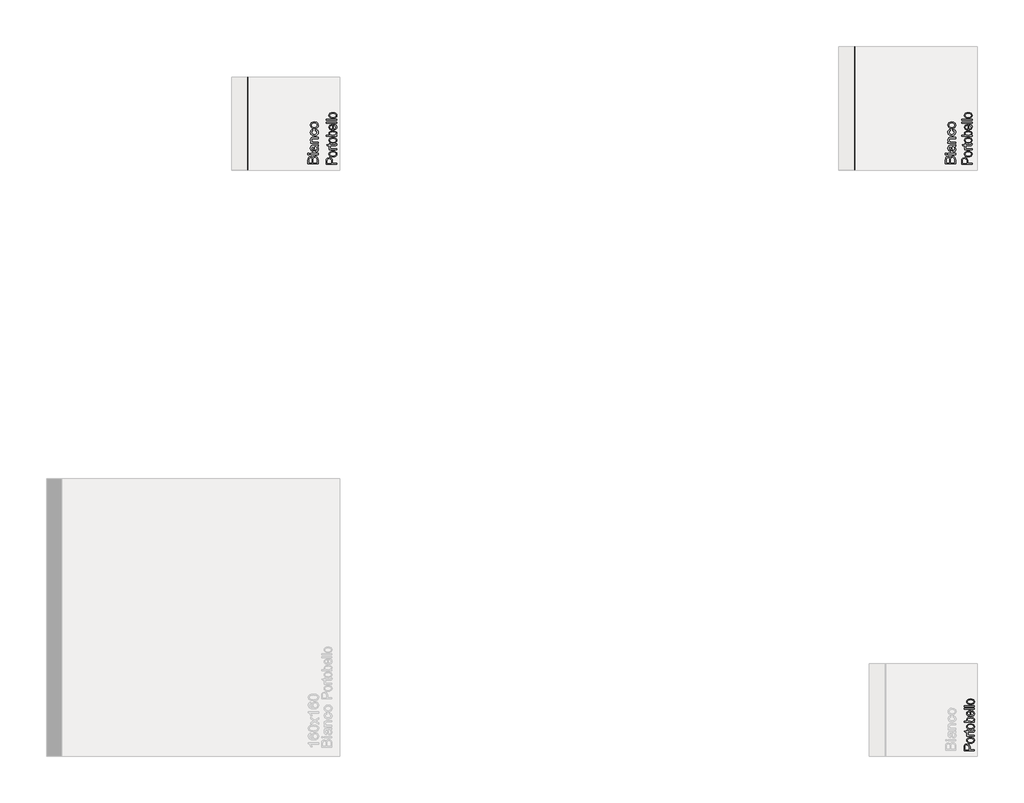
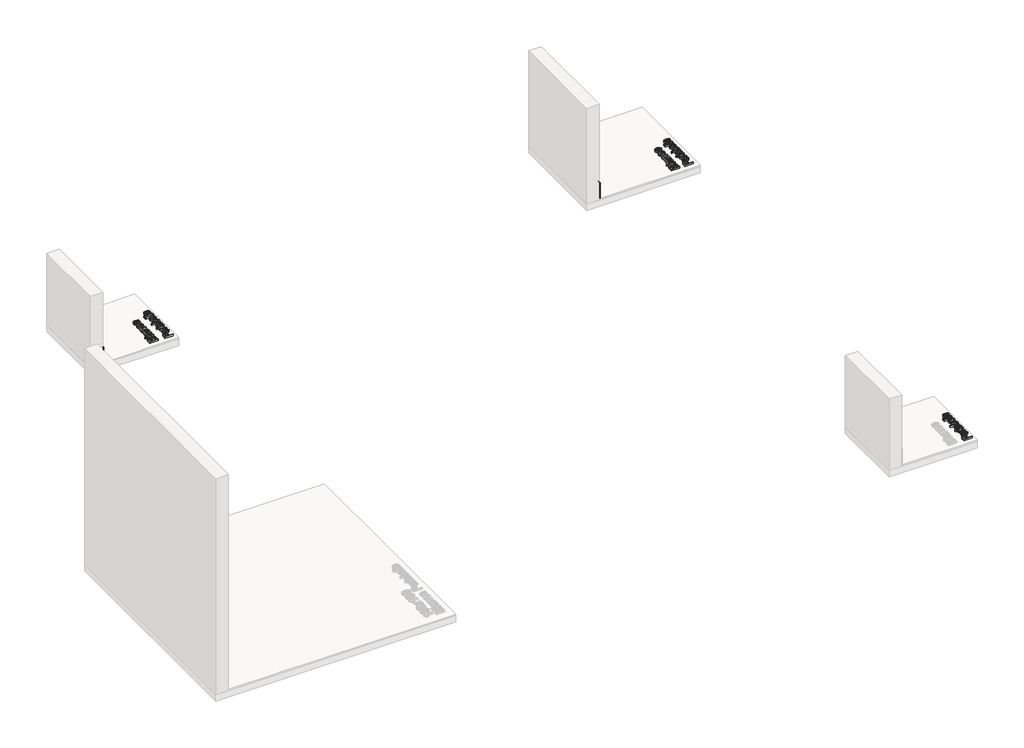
# One storey, part 13 of 14: 7 proxies.
"""IFC4 building model written with IfcOpenShell, lengths in millimetres."""

from ifc_helpers import new_model, si_unit, frame, origin, place, context, project, spatial, polyline, outline, extrude, element, save
from ifc_brep_helpers import plane_surface, extruded_surface, spline_curve, advanced_brep

model = new_model("IFC4")

# Units and contexts
model_context = context("Model", 3, world=origin())
ifc_project = project(units=[si_unit("LENGTHUNIT", "METRE", prefix="MILLI")], contexts=[model_context])

# Site, building, storey
site = spatial("IfcSite", under=ifc_project)
building = spatial("IfcBuilding", under=site)
storey = spatial("IfcBuildingStorey", under=building, Name="PORTOBELLO - SHOWROOM", Elevation=0.0)

# Proxies
placement = place(None, origin())
element("IfcBuildingElementProxy", 1, Name="RODAPE CRISTALLO BIANCO ST 20X120 NAT RET", ObjectType="RODAPE CRISTALLO BIANCO ST 20X120 NAT RET", at=placement, inside=storey, context=model_context, shape_type="AdvancedBrep", body=[
    advanced_brep(
    [(-5477.6369429, 28235.3842114, 217.0), (-5477.6369429, 28235.3842114, 17.0), (-5470.6369429, 28235.3842114, 17.0), (-5470.6369429, 28235.3842114, 210.0), (-5477.6369429, 29435.3842114, 217.0), (-5470.6369429, 29435.3842114, 210.0), (-5470.6369429, 29435.3842114, 17.0), (-5477.6369429, 29435.3842114, 17.0)],
    [
        (0, 1),
        (1, 2),
        (2, 3),
        (3, 0, spline_curve(3, [(-5470.6369429, 28235.3842114, 210.0), (-5470.6369429, 28235.3842114, 214.666666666), (-5472.970276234, 28235.3842114, 217.0), (-5477.6369429, 28235.3842114, 217.0)], [4, 4], [0.0, 0.029527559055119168])),
        (4, 5, spline_curve(3, [(-5477.6369429, 29435.3842114, 217.0), (-5472.970276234, 29435.3842114, 217.0), (-5470.6369429, 29435.3842114, 214.666666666), (-5470.6369429, 29435.3842114, 210.0)], [4, 4], [0.0, 0.029527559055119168])),
        (5, 6),
        (6, 7),
        (7, 4),
        (0, 4),
        (7, 1),
        (6, 2),
        (5, 3),
    ],
    [
        plane_surface(frame((-5677.6369429, 28235.3842114, 17.0), z_axis=(0.0, -1.0, 0.0), x_axis=(0.0, 0.0, 1.0))),
        plane_surface(frame((-5677.6369429, 29435.3842114, 17.0), z_axis=(0.0, 1.0, 0.0), x_axis=(0.0, 0.0, 1.0))),
        plane_surface(frame((-5477.6369429, 28235.3842114, 217.0), z_axis=(-1.0, 0.0, 0.0), x_axis=(0.0, 1.0, 0.0))),
        plane_surface(frame((-5477.6369429, 28235.3842114, 17.0), z_axis=(0.0, 0.0, -1.0), x_axis=(0.0, 1.0, 0.0))),
        plane_surface(frame((-5470.6369429, 28235.3842114, 17.0), z_axis=(1.0, 0.0, 0.0), x_axis=(0.0, 1.0, 0.0))),
        extruded_surface(spline_curve(3, [(-5470.6369429, 29435.3842114, 210.0), (-5470.6369429, 29435.3842114, 214.666666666), (-5472.970276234, 29435.3842114, 217.0), (-5477.6369429, 29435.3842114, 217.0)], [4, 4], [0.0, 0.029527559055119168]), (0.0, -1200.0, 0.0), 1200.0),
    ],
    [
        (0, [[1, 2, 3, 4]]),
        (1, [[5, 6, 7, 8]]),
        (2, [[-1, 9, -8, 10]]),
        (3, [[-2, -10, -7, 11]]),
        (4, [[-3, -11, -6, 12]]),
        (5, [[-4, -12, -5, -9]]),
    ],
),
])
element("IfcBuildingElementProxy", 2, Name="RODAPE CRISTALLO BIANCO 20X90 POL RET", ObjectType="RODAPE CRISTALLO BIANCO 20X90 POL RET", at=placement, inside=storey, context=model_context, shape_type="AdvancedBrep", body=[
    advanced_brep(
    [(-11377.661959, 28235.3842114, 217.0), (-11377.661959, 28235.3842114, 17.0), (-11369.661959, 28235.3842114, 17.0), (-11369.661959, 28235.3842114, 209.0), (-11377.661959, 29135.3842114, 217.0), (-11369.661959, 29135.3842114, 209.0), (-11369.661959, 29135.3842114, 17.0), (-11377.661959, 29135.3842114, 17.0)],
    [
        (0, 1),
        (1, 2),
        (2, 3),
        (3, 0, spline_curve(3, [(-11369.661959, 28235.3842114, 209.0), (-11369.661959, 28235.3842114, 214.333333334), (-11372.328625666, 28235.3842114, 217.0), (-11377.661959, 28235.3842114, 217.0)], [4, 4], [0.0, 0.029527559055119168])),
        (4, 5, spline_curve(3, [(-11377.661959, 29135.3842114, 217.0), (-11372.328625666, 29135.3842114, 217.0), (-11369.661959, 29135.3842114, 214.333333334), (-11369.661959, 29135.3842114, 209.0)], [4, 4], [0.0, 0.029527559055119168])),
        (5, 6),
        (6, 7),
        (7, 4),
        (0, 4),
        (7, 1),
        (6, 2),
        (5, 3),
    ],
    [
        plane_surface(frame((-11577.661959, 28235.3842114, 17.0), z_axis=(0.0, -1.0, 0.0), x_axis=(0.0, 0.0, 1.0))),
        plane_surface(frame((-11577.661959, 29135.3842114, 17.0), z_axis=(0.0, 1.0, 0.0), x_axis=(0.0, 0.0, 1.0))),
        plane_surface(frame((-11377.661959, 28235.3842114, 217.0), z_axis=(-1.0, 0.0, 0.0), x_axis=(0.0, 1.0, 0.0))),
        plane_surface(frame((-11377.661959, 28235.3842114, 17.0), z_axis=(0.0, 0.0, -1.0), x_axis=(0.0, 1.0, 0.0))),
        plane_surface(frame((-11369.661959, 28235.3842114, 17.0), z_axis=(1.0, 0.0, 0.0), x_axis=(0.0, 1.0, 0.0))),
        extruded_surface(spline_curve(3, [(-11369.661959, 29135.3842114, 209.0), (-11369.661959, 29135.3842114, 214.333333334), (-11372.328625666, 29135.3842114, 217.0), (-11377.661959, 29135.3842114, 217.0)], [4, 4], [0.0, 0.029527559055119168]), (0.0, -900.0, 0.0), 900.0),
    ],
    [
        (0, [[1, 2, 3, 4]]),
        (1, [[5, 6, 7, 8]]),
        (2, [[-1, 9, -8, 10]]),
        (3, [[-2, -10, -7, 11]]),
        (4, [[-3, -11, -6, 12]]),
        (5, [[-4, -12, -5, -9]]),
    ],
),
])
element("IfcBuildingElementProxy", 3, Name="10mm Arial", ObjectType="10mm Arial", at=placement, inside=storey, context=model_context, shape_type="SweptSolid", body=[
    extrude(outline(polyline([(-4490.3932397, 28294.2602677), (-4590.8495499, 28294.2602677), (-4590.8495499, 28332.5935716), (-4587.8942312, 28351.3678161), (-4578.8075459, 28362.4533269), (-4565.9562015, 28366.4632406), (-4554.2207659, 28363.090989), (-4545.3302843, 28352.9006577), (-4535.9615562, 28365.2737555), (-4520.3388341, 28369.6025003), (-4506.8375649, 28366.6471816), (-4497.2235821, 28359.3263299), (-4492.1222851, 28348.4002346), (-4490.3932397, 28332.299266), (-4490.3932397, 28294.2602677)]), holes=[polyline([(-4550.0391739, 28306.8173065), (-4550.0391739, 28329.7486175), (-4551.1182944, 28343.1395221), (-4555.7658702, 28351.1961378), (-4563.9451133, 28353.9062018), (-4572.136619, 28351.3800788), (-4576.9803986, 28344.1450662), (-4578.2925111, 28328.0073094), (-4578.2925111, 28306.8173065), (-4550.0391739, 28306.8173065)]), polyline([(-4502.9502785, 28306.8173065), (-4502.9502785, 28332.5690461), (-4503.4407878, 28341.8887233), (-4506.1753773, 28349.7736608), (-4511.7549209, 28354.9975851), (-4520.2162068, 28357.0454615), (-4529.9773424, 28354.6419658), (-4535.8021406, 28346.8551303), (-4537.4821351, 28331.3427728), (-4537.4821351, 28306.8173065), (-4502.9502785, 28306.8173065)])]), frame((0.0, 0.0, 17.0), z_axis=(0.0, 0.0, 1.0), x_axis=(1.0, 0.0, 0.0)), (0.0, 0.0, 1.0), 20.0),
    extrude(outline(polyline([(-4578.2925111, 28385.2987988), (-4590.8495499, 28385.2987988), (-4590.8495499, 28397.8558375), (-4578.2925111, 28397.8558375), (-4578.2925111, 28385.2987988)])), frame((0.0, 0.0, 17.0), z_axis=(0.0, 0.0, 1.0), x_axis=(1.0, 0.0, 0.0)), (0.0, 0.0, 1.0), 20.0),
    extrude(outline(polyline([(-4490.3932397, 28385.2987988), (-4564.1658425, 28385.2987988), (-4564.1658425, 28397.8558375), (-4490.3932397, 28397.8558375), (-4490.3932397, 28385.2987988)])), frame((0.0, 0.0, 17.0), z_axis=(0.0, 0.0, 1.0), x_axis=(1.0, 0.0, 0.0)), (0.0, 0.0, 1.0), 20.0),
    extrude(outline(polyline([(-4499.8110188, 28463.7802911), (-4491.300682, 28451.603397), (-4488.8236099, 28438.1511787), (-4490.3135319, 28427.6573448), (-4494.7832982, 28419.9164945), (-4501.570721, 28415.1432256), (-4510.0136128, 28413.552136), (-4519.9464267, 28415.9556317), (-4527.1569138, 28422.2709393), (-4531.2771921, 28431.063319), (-4533.165653, 28441.9281005), (-4537.4821351, 28463.7067147), (-4540.2780383, 28463.7802911), (-4549.5486645, 28460.3222003), (-4553.1784336, 28446.4407864), (-4550.7626751, 28433.7365948), (-4542.1910246, 28427.6788046), (-4543.7606545, 28415.1217658), (-4556.0233876, 28420.5541566), (-4563.2093493, 28431.4925146), (-4565.7354723, 28448.0594671), (-4563.5036549, 28463.277519), (-4557.8995858, 28471.873695), (-4549.3769863, 28475.7241932), (-4538.3895773, 28476.3373298), (-4522.7668553, 28476.3373298), (-4500.951453, 28476.974992), (-4490.3932397, 28479.4765895), (-4490.3932397, 28466.9195508), (-4499.8110188, 28463.7802911)]), holes=[polyline([(-4524.9250963, 28463.7802911), (-4521.0745981, 28443.5222559), (-4519.0389844, 28432.7187879), (-4515.7280464, 28427.8259574), (-4510.8965296, 28426.1091748), (-4504.1029754, 28429.8493084), (-4501.3806486, 28440.8244546), (-4504.3850183, 28453.5286461), (-4511.656819, 28461.7201519), (-4521.3689037, 28463.7067147), (-4524.9250963, 28463.7802911)])]), frame((0.0, 0.0, 17.0), z_axis=(0.0, 0.0, 1.0), x_axis=(1.0, 0.0, 0.0)), (0.0, 0.0, 1.0), 20.0),
    extrude(outline(polyline([(-4490.3932397, 28493.6032581), (-4564.1658425, 28493.6032581), (-4564.1658425, 28506.1602969), (-4553.8651466, 28506.1602969), (-4562.7678909, 28515.762017), (-4565.7354723, 28528.8708787), (-4563.3442394, 28540.7289417), (-4557.06572, 28548.8223456), (-4547.8318819, 28552.5870047), (-4535.691776, 28553.2491923), (-4490.3932397, 28553.2491923), (-4490.3932397, 28540.6921535), (-4533.9995189, 28540.6921535), (-4545.1095551, 28539.245151), (-4550.9834043, 28534.1315913), (-4553.1784336, 28525.5108899), (-4548.2488148, 28511.8869933), (-4541.1057727, 28507.591971), (-4529.535884, 28506.1602969), (-4490.3932397, 28506.1602969), (-4490.3932397, 28493.6032581)])), frame((0.0, 0.0, 17.0), z_axis=(0.0, 0.0, 1.0), x_axis=(1.0, 0.0, 0.0)), (0.0, 0.0, 1.0), 20.0),
    extrude(outline(polyline([(-4517.0769471, 28617.604016), (-4515.5073172, 28630.1610547), (-4504.339033, 28626.6600444), (-4495.8992069, 28620.0810881), (-4490.5925091, 28611.0434537), (-4488.8236099, 28600.1664094), (-4491.2914849, 28586.8092273), (-4498.6951101, 28576.3644443), (-4510.7095229, 28569.6230068), (-4527.009761, 28567.3758609), (-4547.8686701, 28571.2140964), (-4561.2718374, 28582.9127438), (-4565.7354723, 28599.9947311), (-4564.2026307, 28610.605061), (-4559.6041057, 28619.0878067), (-4552.1851522, 28625.173188), (-4542.1910246, 28628.5914249), (-4540.6213948, 28616.0343861), (-4550.0269111, 28610.2095879), (-4553.1784336, 28600.092833), (-4551.6271978, 28591.9779693), (-4546.9734906, 28585.5369687), (-4538.9659258, 28581.3339169), (-4527.3531175, 28579.9328997), (-4515.5839593, 28581.3032601), (-4507.5488034, 28585.4143414), (-4502.9226873, 28591.738846), (-4501.3806486, 28599.7494765), (-4505.2311468, 28611.583014), (-4517.0769471, 28617.604016)])), frame((0.0, 0.0, 17.0), z_axis=(0.0, 0.0, 1.0), x_axis=(1.0, 0.0, 0.0)), (0.0, 0.0, 1.0), 20.0),
    extrude(outline(polyline([(-4527.2795411, 28638.009204), (-4545.0666356, 28640.7253994), (-4557.568492, 28648.8739856), (-4563.6937272, 28658.9416895), (-4565.7354723, 28670.9959562), (-4563.2492032, 28684.1875914), (-4555.7903957, 28694.7243449), (-4543.9476612, 28701.6313294), (-4528.3096107, 28703.9336575), (-4505.9669108, 28699.8624301), (-4493.3240329, 28688.0043671), (-4488.8236099, 28670.9959562), (-4491.300682, 28657.6449055), (-4498.7318983, 28647.1204147), (-4510.8229532, 28640.2870067), (-4527.2795411, 28638.009204)]), holes=[polyline([(-4527.3040666, 28650.5662427), (-4515.9395786, 28652.0193766), (-4507.843109, 28656.3787783), (-4502.9962637, 28662.9393405), (-4501.3806486, 28670.9959562), (-4503.0054608, 28679.0157837), (-4507.8798972, 28685.5640832), (-4516.0836657, 28689.9234849), (-4527.696474, 28691.3766187), (-4538.7298682, 28689.9142878), (-4546.7159732, 28685.527295), (-4551.5628185, 28678.9697985), (-4553.1784336, 28670.9959562), (-4551.5689498, 28662.9393405), (-4546.7404986, 28656.3787783), (-4538.6624232, 28652.0193766), (-4527.3040666, 28650.5662427)])]), frame((0.0, 0.0, 17.0), z_axis=(0.0, 0.0, 1.0), x_axis=(1.0, 0.0, 0.0)), (0.0, 0.0, 1.0), 20.0),
])
element("IfcBuildingElementProxy", 4, Name="10mm Arial", ObjectType="10mm Arial", at=placement, inside=storey, context=model_context, shape_type="SweptSolid", body=[
    extrude(outline(polyline([(-10687.661959, 28294.2602677), (-10788.1182691, 28294.2602677), (-10788.1182691, 28332.5935716), (-10785.1629505, 28351.3678161), (-10776.0762652, 28362.4533269), (-10763.2249208, 28366.4632406), (-10751.4894852, 28363.090989), (-10742.5990036, 28352.9006577), (-10733.2302755, 28365.2737555), (-10717.6075534, 28369.6025003), (-10704.1062842, 28366.6471816), (-10694.4923014, 28359.3263299), (-10689.3910044, 28348.4002346), (-10687.661959, 28332.299266), (-10687.661959, 28294.2602677)]), holes=[polyline([(-10747.3078932, 28306.8173065), (-10747.3078932, 28329.7486175), (-10748.3870137, 28343.1395221), (-10753.0345895, 28351.1961378), (-10761.2138326, 28353.9062018), (-10769.4053383, 28351.3800788), (-10774.2491179, 28344.1450662), (-10775.5612304, 28328.0073094), (-10775.5612304, 28306.8173065), (-10747.3078932, 28306.8173065)]), polyline([(-10700.2189978, 28306.8173065), (-10700.2189978, 28332.5690461), (-10700.7095071, 28341.8887233), (-10703.4440966, 28349.7736608), (-10709.0236402, 28354.9975851), (-10717.4849261, 28357.0454615), (-10727.2460617, 28354.6419658), (-10733.0708599, 28346.8551303), (-10734.7508544, 28331.3427728), (-10734.7508544, 28306.8173065), (-10700.2189978, 28306.8173065)])]), frame((0.0, 0.0, 18.0), z_axis=(0.0, 0.0, 1.0), x_axis=(1.0, 0.0, 0.0)), (0.0, 0.0, 1.0), 20.0),
    extrude(outline(polyline([(-10775.5612304, 28385.2987988), (-10788.1182691, 28385.2987988), (-10788.1182691, 28397.8558375), (-10775.5612304, 28397.8558375), (-10775.5612304, 28385.2987988)])), frame((0.0, 0.0, 18.0), z_axis=(0.0, 0.0, 1.0), x_axis=(1.0, 0.0, 0.0)), (0.0, 0.0, 1.0), 20.0),
    extrude(outline(polyline([(-10687.661959, 28385.2987988), (-10761.4345618, 28385.2987988), (-10761.4345618, 28397.8558375), (-10687.661959, 28397.8558375), (-10687.661959, 28385.2987988)])), frame((0.0, 0.0, 18.0), z_axis=(0.0, 0.0, 1.0), x_axis=(1.0, 0.0, 0.0)), (0.0, 0.0, 1.0), 20.0),
    extrude(outline(polyline([(-10697.0797381, 28463.7802911), (-10688.5694013, 28451.603397), (-10686.0923292, 28438.1511787), (-10687.5822512, 28427.6573448), (-10692.0520175, 28419.9164945), (-10698.8394403, 28415.1432256), (-10707.2823321, 28413.552136), (-10717.2151459, 28415.9556317), (-10724.4256331, 28422.2709393), (-10728.5459114, 28431.063319), (-10730.4343723, 28441.9281005), (-10734.7508544, 28463.7067147), (-10737.5467575, 28463.7802911), (-10746.8173838, 28460.3222003), (-10750.4471528, 28446.4407864), (-10748.0313944, 28433.7365948), (-10739.4597439, 28427.6788046), (-10741.0293738, 28415.1217658), (-10753.2921069, 28420.5541566), (-10760.4780686, 28431.4925146), (-10763.0041916, 28448.0594671), (-10760.7723742, 28463.277519), (-10755.1683051, 28471.873695), (-10746.6457056, 28475.7241932), (-10735.6582966, 28476.3373298), (-10720.0355746, 28476.3373298), (-10698.2201723, 28476.974992), (-10687.661959, 28479.4765895), (-10687.661959, 28466.9195508), (-10697.0797381, 28463.7802911)]), holes=[polyline([(-10722.1938156, 28463.7802911), (-10718.3433174, 28443.5222559), (-10716.3077037, 28432.7187879), (-10712.9967657, 28427.8259574), (-10708.1652489, 28426.1091748), (-10701.3716947, 28429.8493084), (-10698.6493679, 28440.8244546), (-10701.6537375, 28453.5286461), (-10708.9255383, 28461.7201519), (-10718.637623, 28463.7067147), (-10722.1938156, 28463.7802911)])]), frame((0.0, 0.0, 18.0), z_axis=(0.0, 0.0, 1.0), x_axis=(1.0, 0.0, 0.0)), (0.0, 0.0, 1.0), 20.0),
    extrude(outline(polyline([(-10687.661959, 28493.6032581), (-10761.4345618, 28493.6032581), (-10761.4345618, 28506.1602969), (-10751.1338659, 28506.1602969), (-10760.0366102, 28515.762017), (-10763.0041916, 28528.8708787), (-10760.6129586, 28540.7289417), (-10754.3344393, 28548.8223456), (-10745.1006012, 28552.5870047), (-10732.9604953, 28553.2491923), (-10687.661959, 28553.2491923), (-10687.661959, 28540.6921535), (-10731.2682382, 28540.6921535), (-10742.3782744, 28539.245151), (-10748.2521236, 28534.1315913), (-10750.4471528, 28525.5108899), (-10745.5175341, 28511.8869933), (-10738.374492, 28507.591971), (-10726.8046033, 28506.1602969), (-10687.661959, 28506.1602969), (-10687.661959, 28493.6032581)])), frame((0.0, 0.0, 18.0), z_axis=(0.0, 0.0, 1.0), x_axis=(1.0, 0.0, 0.0)), (0.0, 0.0, 1.0), 20.0),
    extrude(outline(polyline([(-10714.3456664, 28617.604016), (-10712.7760365, 28630.1610547), (-10701.6077523, 28626.6600444), (-10693.1679262, 28620.0810881), (-10687.8612284, 28611.0434537), (-10686.0923292, 28600.1664094), (-10688.5602042, 28586.8092273), (-10695.9638294, 28576.3644443), (-10707.9782422, 28569.6230068), (-10724.2784803, 28567.3758609), (-10745.1373894, 28571.2140964), (-10758.5405567, 28582.9127438), (-10763.0041916, 28599.9947311), (-10761.47135, 28610.605061), (-10756.872825, 28619.0878067), (-10749.4538715, 28625.173188), (-10739.4597439, 28628.5914249), (-10737.8901141, 28616.0343861), (-10747.2956304, 28610.2095879), (-10750.4471528, 28600.092833), (-10748.8959171, 28591.9779693), (-10744.2422099, 28585.5369687), (-10736.2346451, 28581.3339169), (-10724.6218368, 28579.9328997), (-10712.8526786, 28581.3032601), (-10704.8175227, 28585.4143414), (-10700.1914066, 28591.738846), (-10698.6493679, 28599.7494765), (-10702.4998661, 28611.583014), (-10714.3456664, 28617.604016)])), frame((0.0, 0.0, 18.0), z_axis=(0.0, 0.0, 1.0), x_axis=(1.0, 0.0, 0.0)), (0.0, 0.0, 1.0), 20.0),
    extrude(outline(polyline([(-10724.5482604, 28638.009204), (-10742.3353548, 28640.7253994), (-10754.8372113, 28648.8739856), (-10760.9624465, 28658.9416895), (-10763.0041916, 28670.9959562), (-10760.5179225, 28684.1875914), (-10753.059115, 28694.7243449), (-10741.2163804, 28701.6313294), (-10725.57833, 28703.9336575), (-10703.2356301, 28699.8624301), (-10690.5927522, 28688.0043671), (-10686.0923292, 28670.9959562), (-10688.5694013, 28657.6449055), (-10696.0006176, 28647.1204147), (-10708.0916725, 28640.2870067), (-10724.5482604, 28638.009204)]), holes=[polyline([(-10724.5727858, 28650.5662427), (-10713.2082979, 28652.0193766), (-10705.1118283, 28656.3787783), (-10700.264983, 28662.9393405), (-10698.6493679, 28670.9959562), (-10700.2741801, 28679.0157837), (-10705.1486165, 28685.5640832), (-10713.352385, 28689.9234849), (-10724.9651933, 28691.3766187), (-10735.9985875, 28689.9142878), (-10743.9846925, 28685.527295), (-10748.8315377, 28678.9697985), (-10750.4471528, 28670.9959562), (-10748.8376691, 28662.9393405), (-10744.0092179, 28656.3787783), (-10735.9311424, 28652.0193766), (-10724.5727858, 28650.5662427)])]), frame((0.0, 0.0, 18.0), z_axis=(0.0, 0.0, 1.0), x_axis=(1.0, 0.0, 0.0)), (0.0, 0.0, 1.0), 20.0),
])
element("IfcBuildingElementProxy", 5, Name="10mm Arial Narrow", ObjectType="10mm Arial Narrow", at=placement, inside=storey, context=model_context, shape_type="SweptSolid", body=[
    extrude(outline(polyline([(-4330.3932397, 28291.3953268), (-4431.1118435, 28291.3953268), (-4431.1118435, 28322.6922115), (-4429.2335227, 28338.987913), (-4419.7530796, 28350.4608991), (-4402.7339707, 28354.7505776), (-4390.6581452, 28352.9642692), (-4381.0317514, 28347.6053439), (-4374.730493, 28337.8615551), (-4372.6300735, 28322.9206559), (-4372.6300735, 28301.1422885), (-4330.3932397, 28301.1422885), (-4330.3932397, 28291.3953268)]), holes=[polyline([(-4384.0015288, 28301.1422885), (-4384.0015288, 28324.1136434), (-4388.532343, 28339.9778388), (-4402.2009338, 28345.0036159), (-4412.3667102, 28342.5288014), (-4418.16666, 28336.5511726), (-4419.7403882, 28323.885199), (-4419.7403882, 28301.1422885), (-4384.0015288, 28301.1422885)])]), frame((0.0, 0.0, 17.0), z_axis=(0.0, 0.0, 1.0), x_axis=(1.0, 0.0, 0.0)), (0.0, 0.0, 1.0), 20.0),
    extrude(outline(polyline([(-4366.9443459, 28362.8730456), (-4383.5351215, 28364.8275145), (-4395.4872063, 28370.6909211), (-4402.7117609, 28379.5494878), (-4405.1199457, 28390.4894369), (-4402.7117609, 28401.3024725), (-4395.4872063, 28410.186422), (-4383.7254918, 28416.1259767), (-4367.7058273, 28418.1058283), (-4350.5439407, 28416.1608779), (-4338.4014855, 28410.3260269), (-4331.176931, 28401.4769787), (-4328.7687461, 28390.4894369), (-4331.1832766, 28379.6288088), (-4338.4268683, 28370.7543779), (-4350.3852987, 28364.8433787), (-4366.9443459, 28362.8730456)]), holes=[polyline([(-4366.9697286, 28372.6200073), (-4354.4179772, 28373.9240441), (-4345.5467192, 28377.8361547), (-4340.2734606, 28383.6773514), (-4338.5157078, 28390.7686468), (-4340.2893248, 28397.48872), (-4345.6101759, 28403.1807933), (-4354.4972982, 28407.0643483), (-4366.9697286, 28408.3588666), (-4379.483406, 28407.0548298), (-4388.3419727, 28403.1427192), (-4393.6152312, 28397.3015225), (-4395.3729841, 28390.2102271), (-4393.6057127, 28383.4425614), (-4388.3038986, 28377.7600066), (-4379.4358134, 28373.9050071), (-4366.9697286, 28372.6200073)])]), frame((0.0, 0.0, 17.0), z_axis=(0.0, 0.0, 1.0), x_axis=(1.0, 0.0, 0.0)), (0.0, 0.0, 1.0), 20.0),
    extrude(outline(polyline([(-4338.5157078, 28489.5835471), (-4328.7687461, 28491.2080407), (-4328.7687461, 28483.847054), (-4330.8882026, 28475.5722897), (-4336.6881524, 28471.2572286), (-4351.3339776, 28470.0896238), (-4393.7484905, 28470.0896238), (-4393.7484905, 28461.9671557), (-4396.9974777, 28461.9671557), (-4392.1239968, 28460.3426621), (-4393.7484905, 28452.7786138), (-4391.4259722, 28446.6994541), (-4384.9406892, 28442.8285904), (-4369.5333826, 28440.8487388), (-4330.3932397, 28440.8487388), (-4330.3932397, 28431.1017772), (-4403.4954521, 28431.1017772), (-4403.4954521, 28440.8487388), (-4393.7992559, 28440.8487388), (-4402.886267, 28447.0928861), (-4405.1199457, 28453.4893297), (-4403.4954521, 28461.9671557), (-4403.4954521, 28470.0896238), (-4419.7403882, 28470.0896238), (-4427.8628562, 28479.8365854), (-4403.4954521, 28479.8365854), (-4403.4954521, 28489.5835471), (-4393.7484905, 28489.5835471), (-4393.7484905, 28479.8365854), (-4349.1002989, 28479.8365854), (-4341.1047444, 28480.6995977), (-4338.5157078, 28485.3192514), (-4338.5157078, 28489.5835471)])), frame((0.0, 0.0, 17.0), z_axis=(0.0, 0.0, 1.0), x_axis=(1.0, 0.0, 0.0)), (0.0, 0.0, 1.0), 20.0),
    extrude(outline(polyline([(-4366.9443459, 28496.0815215), (-4383.5351215, 28498.0359904), (-4395.4872063, 28503.899397), (-4402.7117609, 28512.7579637), (-4405.1199457, 28523.6979129), (-4402.7117609, 28534.5109485), (-4395.4872063, 28543.3948979), (-4383.7254918, 28549.3344526), (-4367.7058273, 28551.3143042), (-4350.5439407, 28549.3693539), (-4338.4014855, 28543.5345028), (-4331.176931, 28534.6854546), (-4328.7687461, 28523.6979129), (-4331.1832766, 28512.8372847), (-4338.4268683, 28503.9628538), (-4350.3852987, 28498.0518546), (-4366.9443459, 28496.0815215)]), holes=[polyline([(-4366.9697286, 28505.8284832), (-4354.4179772, 28507.13252), (-4345.5467192, 28511.0446306), (-4340.2734606, 28516.8858274), (-4338.5157078, 28523.9771227), (-4340.2893248, 28530.6971959), (-4345.6101759, 28536.3892692), (-4354.4972982, 28540.2728242), (-4366.9697286, 28541.5673426), (-4379.483406, 28540.2633057), (-4388.3419727, 28536.3511951), (-4393.6152312, 28530.5099984), (-4395.3729841, 28523.418703), (-4393.6057127, 28516.6510373), (-4388.3038986, 28510.9684825), (-4379.4358134, 28507.113483), (-4366.9697286, 28505.8284832)])]), frame((0.0, 0.0, 17.0), z_axis=(0.0, 0.0, 1.0), x_axis=(1.0, 0.0, 0.0)), (0.0, 0.0, 1.0), 20.0),
    extrude(outline(polyline([(-4330.3932397, 28574.0572148), (-4330.3932397, 28564.3102531), (-4431.1118435, 28564.3102531), (-4431.1118435, 28574.0572148), (-4395.7029593, 28574.0572148), (-4402.7847362, 28581.4562755), (-4405.1199457, 28590.6575088), (-4400.9191068, 28603.5392355), (-4388.1896764, 28612.816617), (-4367.5027656, 28616.2940486), (-4351.0484221, 28614.3617896), (-4338.845683, 28608.5650126), (-4331.2879803, 28600.1918903), (-4328.7687461, 28590.5305953), (-4331.3831655, 28581.189757), (-4339.1502756, 28574.0572148), (-4330.3932397, 28574.0572148)]), holes=[polyline([(-4367.5027656, 28574.0572148), (-4350.2552123, 28576.1385972), (-4341.5235592, 28582.0273865), (-4338.5157078, 28590.4798298), (-4340.305189, 28596.4225574), (-4345.6736327, 28601.6609148), (-4367.0966422, 28606.5470869), (-4388.532343, 28601.8385937), (-4393.6628238, 28596.5938907), (-4395.3729841, 28590.2767681), (-4393.5835028, 28584.2991393), (-4388.2150591, 28579.0068437), (-4367.5027656, 28574.0572148)])]), frame((0.0, 0.0, 17.0), z_axis=(0.0, 0.0, 1.0), x_axis=(1.0, 0.0, 0.0)), (0.0, 0.0, 1.0), 20.0),
    extrude(outline(polyline([(-4353.1361502, 28668.2778441), (-4351.5116566, 28678.0248057), (-4341.62509, 28674.3252754), (-4334.5052392, 28668.5062885), (-4330.2028694, 28660.8026352), (-4328.7687461, 28651.4491056), (-4331.1832766, 28639.8555516), (-4338.4268683, 28630.7114294), (-4350.2330025, 28624.7718746), (-4366.3351608, 28622.792023), (-4383.0020845, 28624.7813931), (-4395.1826137, 28630.7495034), (-4402.6356127, 28639.7635393), (-4405.1199457, 28650.8906859), (-4402.7212794, 28661.5736351), (-4395.5252803, 28670.3211524), (-4383.7857757, 28676.1560035), (-4367.7565927, 28678.1009539), (-4364.5076055, 28678.0248057), (-4364.5076055, 28632.5389847), (-4345.0644476, 28638.5419962), (-4340.1528927, 28644.4720325), (-4338.5157078, 28651.5760192), (-4342.1708184, 28661.7544869), (-4353.1361502, 28668.2778441)]), holes=[polyline([(-4374.2545671, 28633.1989352), (-4374.2545671, 28668.2778441), (-4388.5196517, 28664.0135484), (-4393.659651, 28658.1882158), (-4395.3729841, 28650.9668341), (-4389.6618737, 28638.7577493), (-4374.2545671, 28633.1989352)])]), frame((0.0, 0.0, 17.0), z_axis=(0.0, 0.0, 1.0), x_axis=(1.0, 0.0, 0.0)), (0.0, 0.0, 1.0), 20.0),
    extrude(outline(polyline([(-4330.3932397, 28691.0207546), (-4431.1118435, 28691.0207546), (-4431.1118435, 28700.7677163), (-4330.3932397, 28700.7677163), (-4330.3932397, 28691.0207546)])), frame((0.0, 0.0, 17.0), z_axis=(0.0, 0.0, 1.0), x_axis=(1.0, 0.0, 0.0)), (0.0, 0.0, 1.0), 20.0),
    extrude(outline(polyline([(-4330.3932397, 28717.0126523), (-4431.1118435, 28717.0126523), (-4431.1118435, 28726.759614), (-4330.3932397, 28726.759614), (-4330.3932397, 28717.0126523)])), frame((0.0, 0.0, 17.0), z_axis=(0.0, 0.0, 1.0), x_axis=(1.0, 0.0, 0.0)), (0.0, 0.0, 1.0), 20.0),
    extrude(outline(polyline([(-4366.9443459, 28738.1310693), (-4383.5351215, 28740.0855381), (-4395.4872063, 28745.9489448), (-4402.7117609, 28754.8075115), (-4405.1199457, 28765.7474606), (-4402.7117609, 28776.5604962), (-4395.4872063, 28785.4444456), (-4383.7254918, 28791.3840004), (-4367.7058273, 28793.363852), (-4350.5439407, 28791.4189016), (-4338.4014855, 28785.5840505), (-4331.176931, 28776.7350023), (-4328.7687461, 28765.7474606), (-4331.1832766, 28754.8868324), (-4338.4268683, 28746.0124015), (-4350.3852987, 28740.1014023), (-4366.9443459, 28738.1310693)]), holes=[polyline([(-4366.9697286, 28747.8780309), (-4354.4179772, 28749.1820678), (-4345.5467192, 28753.0941784), (-4340.2734606, 28758.9353751), (-4338.5157078, 28766.0266704), (-4340.2893248, 28772.7467436), (-4345.6101759, 28778.4388169), (-4354.4972982, 28782.322372), (-4366.9697286, 28783.6168903), (-4379.483406, 28782.3128534), (-4388.3419727, 28778.4007429), (-4393.6152312, 28772.5595461), (-4395.3729841, 28765.4682508), (-4393.6057127, 28758.700585), (-4388.3038986, 28753.0180302), (-4379.4358134, 28749.1630307), (-4366.9697286, 28747.8780309)])]), frame((0.0, 0.0, 17.0), z_axis=(0.0, 0.0, 1.0), x_axis=(1.0, 0.0, 0.0)), (0.0, 0.0, 1.0), 20.0),
])
element("IfcBuildingElementProxy", 6, Name="10mm Arial Narrow", ObjectType="10mm Arial Narrow", at=placement, inside=storey, context=model_context, shape_type="SweptSolid", body=[
    extrude(outline(polyline([(-4307.6369429, 22591.3953268), (-4408.3555467, 22591.3953268), (-4408.3555467, 22622.6922115), (-4406.4772259, 22638.987913), (-4396.9967828, 22650.4608991), (-4379.9776739, 22654.7505776), (-4367.9018484, 22652.9642692), (-4358.2754546, 22647.6053439), (-4351.9741962, 22637.8615551), (-4349.8737767, 22622.9206559), (-4349.8737767, 22601.1422885), (-4307.6369429, 22601.1422885), (-4307.6369429, 22591.3953268)]), holes=[polyline([(-4361.245232, 22601.1422885), (-4361.245232, 22624.1136434), (-4365.7760462, 22639.9778388), (-4379.444637, 22645.0036159), (-4389.6104134, 22642.5288014), (-4395.4103632, 22636.5511726), (-4396.9840914, 22623.885199), (-4396.9840914, 22601.1422885), (-4361.245232, 22601.1422885)])]), frame((0.0, 0.0, 18.0), z_axis=(0.0, 0.0, 1.0), x_axis=(1.0, 0.0, 0.0)), (0.0, 0.0, 1.0), 20.0),
    extrude(outline(polyline([(-4344.1880491, 22662.8730456), (-4360.7788247, 22664.8275145), (-4372.7309095, 22670.6909211), (-4379.9554641, 22679.5494878), (-4382.3636489, 22690.4894369), (-4379.9554641, 22701.3024725), (-4372.7309095, 22710.186422), (-4360.969195, 22716.1259767), (-4344.9495305, 22718.1058283), (-4327.7876439, 22716.1608779), (-4315.6451888, 22710.3260269), (-4308.4206342, 22701.4769787), (-4306.0124493, 22690.4894369), (-4308.4269798, 22679.6288088), (-4315.6705715, 22670.7543779), (-4327.629002, 22664.8433787), (-4344.1880491, 22662.8730456)]), holes=[polyline([(-4344.2134318, 22672.6200073), (-4331.6616804, 22673.9240441), (-4322.7904224, 22677.8361547), (-4317.5171638, 22683.6773514), (-4315.759411, 22690.7686468), (-4317.533028, 22697.48872), (-4322.8538791, 22703.1807933), (-4331.7410014, 22707.0643483), (-4344.2134318, 22708.3588666), (-4356.7271092, 22707.0548298), (-4365.5856759, 22703.1427192), (-4370.8589344, 22697.3015225), (-4372.6166873, 22690.2102271), (-4370.8494159, 22683.4425614), (-4365.5476018, 22677.7600066), (-4356.6795166, 22673.9050071), (-4344.2134318, 22672.6200073)])]), frame((0.0, 0.0, 18.0), z_axis=(0.0, 0.0, 1.0), x_axis=(1.0, 0.0, 0.0)), (0.0, 0.0, 1.0), 20.0),
    extrude(outline(polyline([(-4315.759411, 22789.5835471), (-4306.0124493, 22791.2080407), (-4306.0124493, 22783.847054), (-4308.1319058, 22775.5722897), (-4313.9318557, 22771.2572286), (-4328.5776808, 22770.0896238), (-4370.9921937, 22770.0896238), (-4370.9921937, 22761.9671557), (-4374.2411809, 22761.9671557), (-4369.3677001, 22760.3426621), (-4370.9921937, 22752.7786138), (-4368.6696755, 22746.6994541), (-4362.1843924, 22742.8285904), (-4346.7770858, 22740.8487388), (-4307.6369429, 22740.8487388), (-4307.6369429, 22731.1017772), (-4380.7391553, 22731.1017772), (-4380.7391553, 22740.8487388), (-4371.0429591, 22740.8487388), (-4380.1299702, 22747.0928861), (-4382.3636489, 22753.4893297), (-4380.7391553, 22761.9671557), (-4380.7391553, 22770.0896238), (-4396.9840914, 22770.0896238), (-4405.1065595, 22779.8365854), (-4380.7391553, 22779.8365854), (-4380.7391553, 22789.5835471), (-4370.9921937, 22789.5835471), (-4370.9921937, 22779.8365854), (-4326.3440021, 22779.8365854), (-4318.3484477, 22780.6995977), (-4315.759411, 22785.3192514), (-4315.759411, 22789.5835471)])), frame((0.0, 0.0, 18.0), z_axis=(0.0, 0.0, 1.0), x_axis=(1.0, 0.0, 0.0)), (0.0, 0.0, 1.0), 20.0),
    extrude(outline(polyline([(-4344.1880491, 22796.0815215), (-4360.7788247, 22798.0359904), (-4372.7309095, 22803.899397), (-4379.9554641, 22812.7579637), (-4382.3636489, 22823.6979129), (-4379.9554641, 22834.5109485), (-4372.7309095, 22843.3948979), (-4360.969195, 22849.3344526), (-4344.9495305, 22851.3143042), (-4327.7876439, 22849.3693539), (-4315.6451888, 22843.5345028), (-4308.4206342, 22834.6854546), (-4306.0124493, 22823.6979129), (-4308.4269798, 22812.8372847), (-4315.6705715, 22803.9628538), (-4327.629002, 22798.0518546), (-4344.1880491, 22796.0815215)]), holes=[polyline([(-4344.2134318, 22805.8284832), (-4331.6616804, 22807.13252), (-4322.7904224, 22811.0446306), (-4317.5171638, 22816.8858274), (-4315.759411, 22823.9771227), (-4317.533028, 22830.6971959), (-4322.8538791, 22836.3892692), (-4331.7410014, 22840.2728242), (-4344.2134318, 22841.5673426), (-4356.7271092, 22840.2633057), (-4365.5856759, 22836.3511951), (-4370.8589344, 22830.5099984), (-4372.6166873, 22823.418703), (-4370.8494159, 22816.6510373), (-4365.5476018, 22810.9684825), (-4356.6795166, 22807.113483), (-4344.2134318, 22805.8284832)])]), frame((0.0, 0.0, 18.0), z_axis=(0.0, 0.0, 1.0), x_axis=(1.0, 0.0, 0.0)), (0.0, 0.0, 1.0), 20.0),
    extrude(outline(polyline([(-4307.6369429, 22874.0572148), (-4307.6369429, 22864.3102531), (-4408.3555467, 22864.3102531), (-4408.3555467, 22874.0572148), (-4372.9466625, 22874.0572148), (-4380.0284394, 22881.4562755), (-4382.3636489, 22890.6575088), (-4378.16281, 22903.5392355), (-4365.4333796, 22912.816617), (-4344.7464688, 22916.2940486), (-4328.2921253, 22914.3617896), (-4316.0893862, 22908.5650126), (-4308.5316835, 22900.1918903), (-4306.0124493, 22890.5305953), (-4308.6268687, 22881.189757), (-4316.3939788, 22874.0572148), (-4307.6369429, 22874.0572148)]), holes=[polyline([(-4344.7464688, 22874.0572148), (-4327.4989156, 22876.1385972), (-4318.7672624, 22882.0273865), (-4315.759411, 22890.4798298), (-4317.5488922, 22896.4225574), (-4322.9173359, 22901.6609148), (-4344.3403454, 22906.5470869), (-4365.7760462, 22901.8385937), (-4370.906527, 22896.5938907), (-4372.6166873, 22890.2767681), (-4370.827206, 22884.2991393), (-4365.4587623, 22879.0068437), (-4344.7464688, 22874.0572148)])]), frame((0.0, 0.0, 18.0), z_axis=(0.0, 0.0, 1.0), x_axis=(1.0, 0.0, 0.0)), (0.0, 0.0, 1.0), 20.0),
    extrude(outline(polyline([(-4330.3798534, 22968.2778441), (-4328.7553598, 22978.0248057), (-4318.8687933, 22974.3252754), (-4311.7489424, 22968.5062885), (-4307.4465726, 22960.8026352), (-4306.0124493, 22951.4491056), (-4308.4269798, 22939.8555516), (-4315.6705715, 22930.7114294), (-4327.4767057, 22924.7718746), (-4343.578864, 22922.792023), (-4360.2457877, 22924.7813931), (-4372.4263169, 22930.7495034), (-4379.8793159, 22939.7635393), (-4382.3636489, 22950.8906859), (-4379.9649826, 22961.5736351), (-4372.7689835, 22970.3211524), (-4361.029479, 22976.1560035), (-4345.0002959, 22978.1009539), (-4341.7513087, 22978.0248057), (-4341.7513087, 22932.5389847), (-4322.3081508, 22938.5419962), (-4317.3965959, 22944.4720325), (-4315.759411, 22951.5760192), (-4319.4145216, 22961.7544869), (-4330.3798534, 22968.2778441)]), holes=[polyline([(-4351.4982704, 22933.1989352), (-4351.4982704, 22968.2778441), (-4365.7633549, 22964.0135484), (-4370.9033542, 22958.1882158), (-4372.6166873, 22950.9668341), (-4366.9055769, 22938.7577493), (-4351.4982704, 22933.1989352)])]), frame((0.0, 0.0, 18.0), z_axis=(0.0, 0.0, 1.0), x_axis=(1.0, 0.0, 0.0)), (0.0, 0.0, 1.0), 20.0),
    extrude(outline(polyline([(-4307.6369429, 22991.0207546), (-4408.3555467, 22991.0207546), (-4408.3555467, 23000.7677163), (-4307.6369429, 23000.7677163), (-4307.6369429, 22991.0207546)])), frame((0.0, 0.0, 18.0), z_axis=(0.0, 0.0, 1.0), x_axis=(1.0, 0.0, 0.0)), (0.0, 0.0, 1.0), 20.0),
    extrude(outline(polyline([(-4307.6369429, 23017.0126523), (-4408.3555467, 23017.0126523), (-4408.3555467, 23026.759614), (-4307.6369429, 23026.759614), (-4307.6369429, 23017.0126523)])), frame((0.0, 0.0, 18.0), z_axis=(0.0, 0.0, 1.0), x_axis=(1.0, 0.0, 0.0)), (0.0, 0.0, 1.0), 20.0),
    extrude(outline(polyline([(-4344.1880491, 23038.1310693), (-4360.7788247, 23040.0855381), (-4372.7309095, 23045.9489448), (-4379.9554641, 23054.8075115), (-4382.3636489, 23065.7474606), (-4379.9554641, 23076.5604962), (-4372.7309095, 23085.4444456), (-4360.969195, 23091.3840004), (-4344.9495305, 23093.363852), (-4327.7876439, 23091.4189016), (-4315.6451888, 23085.5840505), (-4308.4206342, 23076.7350023), (-4306.0124493, 23065.7474606), (-4308.4269798, 23054.8868324), (-4315.6705715, 23046.0124015), (-4327.629002, 23040.1014023), (-4344.1880491, 23038.1310693)]), holes=[polyline([(-4344.2134318, 23047.8780309), (-4331.6616804, 23049.1820678), (-4322.7904224, 23053.0941784), (-4317.5171638, 23058.9353751), (-4315.759411, 23066.0266704), (-4317.533028, 23072.7467436), (-4322.8538791, 23078.4388169), (-4331.7410014, 23082.322372), (-4344.2134318, 23083.6168903), (-4356.7271092, 23082.3128534), (-4365.5856759, 23078.4007429), (-4370.8589344, 23072.5595461), (-4372.6166873, 23065.4682508), (-4370.8494159, 23058.700585), (-4365.5476018, 23053.0180302), (-4356.6795166, 23049.1630307), (-4344.2134318, 23047.8780309)])]), frame((0.0, 0.0, 18.0), z_axis=(0.0, 0.0, 1.0), x_axis=(1.0, 0.0, 0.0)), (0.0, 0.0, 1.0), 20.0),
])
element("IfcBuildingElementProxy", 7, Name="10mm Arial Narrow", ObjectType="10mm Arial Narrow", at=placement, inside=storey, context=model_context, shape_type="SweptSolid", body=[
    extrude(outline(polyline([(-10507.661959, 28291.3953268), (-10608.3805628, 28291.3953268), (-10608.3805628, 28322.6922115), (-10606.502242, 28338.987913), (-10597.0217988, 28350.4608991), (-10580.00269, 28354.7505776), (-10567.9268645, 28352.9642692), (-10558.3004707, 28347.6053439), (-10551.9992123, 28337.8615551), (-10549.8987928, 28322.9206559), (-10549.8987928, 28301.1422885), (-10507.661959, 28301.1422885), (-10507.661959, 28291.3953268)]), holes=[polyline([(-10561.2702481, 28301.1422885), (-10561.2702481, 28324.1136434), (-10565.8010623, 28339.9778388), (-10579.4696531, 28345.0036159), (-10589.6354295, 28342.5288014), (-10595.4353793, 28336.5511726), (-10597.0091075, 28323.885199), (-10597.0091075, 28301.1422885), (-10561.2702481, 28301.1422885)])]), frame((0.0, 0.0, 18.0), z_axis=(0.0, 0.0, 1.0), x_axis=(1.0, 0.0, 0.0)), (0.0, 0.0, 1.0), 20.0),
    extrude(outline(polyline([(-10544.2130652, 28362.8730456), (-10560.8038407, 28364.8275145), (-10572.7559256, 28370.6909211), (-10579.9804801, 28379.5494878), (-10582.388665, 28390.4894369), (-10579.9804801, 28401.3024725), (-10572.7559256, 28410.186422), (-10560.9942111, 28416.1259767), (-10544.9745466, 28418.1058283), (-10527.81266, 28416.1608779), (-10515.6702048, 28410.3260269), (-10508.4456503, 28401.4769787), (-10506.0374654, 28390.4894369), (-10508.4519959, 28379.6288088), (-10515.6955875, 28370.7543779), (-10527.654018, 28364.8433787), (-10544.2130652, 28362.8730456)]), holes=[polyline([(-10544.2384479, 28372.6200073), (-10531.6866965, 28373.9240441), (-10522.8154384, 28377.8361547), (-10517.5421799, 28383.6773514), (-10515.784427, 28390.7686468), (-10517.5580441, 28397.48872), (-10522.8788952, 28403.1807933), (-10531.7660175, 28407.0643483), (-10544.2384479, 28408.3588666), (-10556.7521252, 28407.0548298), (-10565.610692, 28403.1427192), (-10570.8839505, 28397.3015225), (-10572.6417034, 28390.2102271), (-10570.874432, 28383.4425614), (-10565.5726179, 28377.7600066), (-10556.7045327, 28373.9050071), (-10544.2384479, 28372.6200073)])]), frame((0.0, 0.0, 18.0), z_axis=(0.0, 0.0, 1.0), x_axis=(1.0, 0.0, 0.0)), (0.0, 0.0, 1.0), 20.0),
    extrude(outline(polyline([(-10515.784427, 28489.5835471), (-10506.0374654, 28491.2080407), (-10506.0374654, 28483.847054), (-10508.1569219, 28475.5722897), (-10513.9568717, 28471.2572286), (-10528.6026969, 28470.0896238), (-10571.0172097, 28470.0896238), (-10571.0172097, 28461.9671557), (-10574.266197, 28461.9671557), (-10569.3927161, 28460.3426621), (-10571.0172097, 28452.7786138), (-10568.6946915, 28446.6994541), (-10562.2094085, 28442.8285904), (-10546.8021019, 28440.8487388), (-10507.661959, 28440.8487388), (-10507.661959, 28431.1017772), (-10580.7641714, 28431.1017772), (-10580.7641714, 28440.8487388), (-10571.0679752, 28440.8487388), (-10580.1549863, 28447.0928861), (-10582.388665, 28453.4893297), (-10580.7641714, 28461.9671557), (-10580.7641714, 28470.0896238), (-10597.0091075, 28470.0896238), (-10605.1315755, 28479.8365854), (-10580.7641714, 28479.8365854), (-10580.7641714, 28489.5835471), (-10571.0172097, 28489.5835471), (-10571.0172097, 28479.8365854), (-10526.3690182, 28479.8365854), (-10518.3734637, 28480.6995977), (-10515.784427, 28485.3192514), (-10515.784427, 28489.5835471)])), frame((0.0, 0.0, 18.0), z_axis=(0.0, 0.0, 1.0), x_axis=(1.0, 0.0, 0.0)), (0.0, 0.0, 1.0), 20.0),
    extrude(outline(polyline([(-10544.2130652, 28496.0815215), (-10560.8038407, 28498.0359904), (-10572.7559256, 28503.899397), (-10579.9804801, 28512.7579637), (-10582.388665, 28523.6979129), (-10579.9804801, 28534.5109485), (-10572.7559256, 28543.3948979), (-10560.9942111, 28549.3344526), (-10544.9745466, 28551.3143042), (-10527.81266, 28549.3693539), (-10515.6702048, 28543.5345028), (-10508.4456503, 28534.6854546), (-10506.0374654, 28523.6979129), (-10508.4519959, 28512.8372847), (-10515.6955875, 28503.9628538), (-10527.654018, 28498.0518546), (-10544.2130652, 28496.0815215)]), holes=[polyline([(-10544.2384479, 28505.8284832), (-10531.6866965, 28507.13252), (-10522.8154384, 28511.0446306), (-10517.5421799, 28516.8858274), (-10515.784427, 28523.9771227), (-10517.5580441, 28530.6971959), (-10522.8788952, 28536.3892692), (-10531.7660175, 28540.2728242), (-10544.2384479, 28541.5673426), (-10556.7521252, 28540.2633057), (-10565.610692, 28536.3511951), (-10570.8839505, 28530.5099984), (-10572.6417034, 28523.418703), (-10570.874432, 28516.6510373), (-10565.5726179, 28510.9684825), (-10556.7045327, 28507.113483), (-10544.2384479, 28505.8284832)])]), frame((0.0, 0.0, 18.0), z_axis=(0.0, 0.0, 1.0), x_axis=(1.0, 0.0, 0.0)), (0.0, 0.0, 1.0), 20.0),
    extrude(outline(polyline([(-10507.661959, 28574.0572148), (-10507.661959, 28564.3102531), (-10608.3805628, 28564.3102531), (-10608.3805628, 28574.0572148), (-10572.9716786, 28574.0572148), (-10580.0534554, 28581.4562755), (-10582.388665, 28590.6575088), (-10578.1878261, 28603.5392355), (-10565.4583957, 28612.816617), (-10544.7714849, 28616.2940486), (-10528.3171414, 28614.3617896), (-10516.1144023, 28608.5650126), (-10508.5566996, 28600.1918903), (-10506.0374654, 28590.5305953), (-10508.6518848, 28581.189757), (-10516.4189949, 28574.0572148), (-10507.661959, 28574.0572148)]), holes=[polyline([(-10544.7714849, 28574.0572148), (-10527.5239316, 28576.1385972), (-10518.7922785, 28582.0273865), (-10515.784427, 28590.4798298), (-10517.5739083, 28596.4225574), (-10522.942352, 28601.6609148), (-10544.3653615, 28606.5470869), (-10565.8010623, 28601.8385937), (-10570.9315431, 28596.5938907), (-10572.6417034, 28590.2767681), (-10570.8522221, 28584.2991393), (-10565.4837784, 28579.0068437), (-10544.7714849, 28574.0572148)])]), frame((0.0, 0.0, 18.0), z_axis=(0.0, 0.0, 1.0), x_axis=(1.0, 0.0, 0.0)), (0.0, 0.0, 1.0), 20.0),
    extrude(outline(polyline([(-10530.4048695, 28668.2778441), (-10528.7803759, 28678.0248057), (-10518.8938093, 28674.3252754), (-10511.7739584, 28668.5062885), (-10507.4715887, 28660.8026352), (-10506.0374654, 28651.4491056), (-10508.4519959, 28639.8555516), (-10515.6955875, 28630.7114294), (-10527.5017218, 28624.7718746), (-10543.6038801, 28622.792023), (-10560.2708038, 28624.7813931), (-10572.451333, 28630.7495034), (-10579.904332, 28639.7635393), (-10582.388665, 28650.8906859), (-10579.9899987, 28661.5736351), (-10572.7939996, 28670.3211524), (-10561.054495, 28676.1560035), (-10545.025312, 28678.1009539), (-10541.7763248, 28678.0248057), (-10541.7763248, 28632.5389847), (-10522.3331669, 28638.5419962), (-10517.421612, 28644.4720325), (-10515.784427, 28651.5760192), (-10519.4395377, 28661.7544869), (-10530.4048695, 28668.2778441)]), holes=[polyline([(-10551.5232864, 28633.1989352), (-10551.5232864, 28668.2778441), (-10565.7883709, 28664.0135484), (-10570.9283703, 28658.1882158), (-10572.6417034, 28650.9668341), (-10566.930593, 28638.7577493), (-10551.5232864, 28633.1989352)])]), frame((0.0, 0.0, 18.0), z_axis=(0.0, 0.0, 1.0), x_axis=(1.0, 0.0, 0.0)), (0.0, 0.0, 1.0), 20.0),
    extrude(outline(polyline([(-10507.661959, 28691.0207546), (-10608.3805628, 28691.0207546), (-10608.3805628, 28700.7677163), (-10507.661959, 28700.7677163), (-10507.661959, 28691.0207546)])), frame((0.0, 0.0, 18.0), z_axis=(0.0, 0.0, 1.0), x_axis=(1.0, 0.0, 0.0)), (0.0, 0.0, 1.0), 20.0),
    extrude(outline(polyline([(-10507.661959, 28717.0126523), (-10608.3805628, 28717.0126523), (-10608.3805628, 28726.759614), (-10507.661959, 28726.759614), (-10507.661959, 28717.0126523)])), frame((0.0, 0.0, 18.0), z_axis=(0.0, 0.0, 1.0), x_axis=(1.0, 0.0, 0.0)), (0.0, 0.0, 1.0), 20.0),
    extrude(outline(polyline([(-10544.2130652, 28738.1310693), (-10560.8038407, 28740.0855381), (-10572.7559256, 28745.9489448), (-10579.9804801, 28754.8075115), (-10582.388665, 28765.7474606), (-10579.9804801, 28776.5604962), (-10572.7559256, 28785.4444456), (-10560.9942111, 28791.3840004), (-10544.9745466, 28793.363852), (-10527.81266, 28791.4189016), (-10515.6702048, 28785.5840505), (-10508.4456503, 28776.7350023), (-10506.0374654, 28765.7474606), (-10508.4519959, 28754.8868324), (-10515.6955875, 28746.0124015), (-10527.654018, 28740.1014023), (-10544.2130652, 28738.1310693)]), holes=[polyline([(-10544.2384479, 28747.8780309), (-10531.6866965, 28749.1820678), (-10522.8154384, 28753.0941784), (-10517.5421799, 28758.9353751), (-10515.784427, 28766.0266704), (-10517.5580441, 28772.7467436), (-10522.8788952, 28778.4388169), (-10531.7660175, 28782.322372), (-10544.2384479, 28783.6168903), (-10556.7521252, 28782.3128534), (-10565.610692, 28778.4007429), (-10570.8839505, 28772.5595461), (-10572.6417034, 28765.4682508), (-10570.874432, 28758.700585), (-10565.5726179, 28753.0180302), (-10556.7045327, 28749.1630307), (-10544.2384479, 28747.8780309)])]), frame((0.0, 0.0, 18.0), z_axis=(0.0, 0.0, 1.0), x_axis=(1.0, 0.0, 0.0)), (0.0, 0.0, 1.0), 20.0),
])

save(model, "model.ifc")
